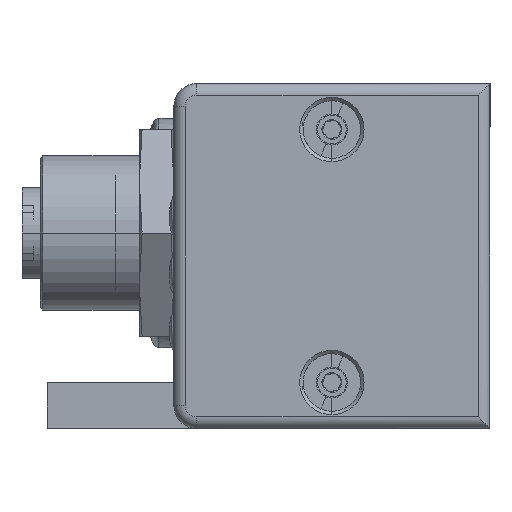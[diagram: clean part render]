
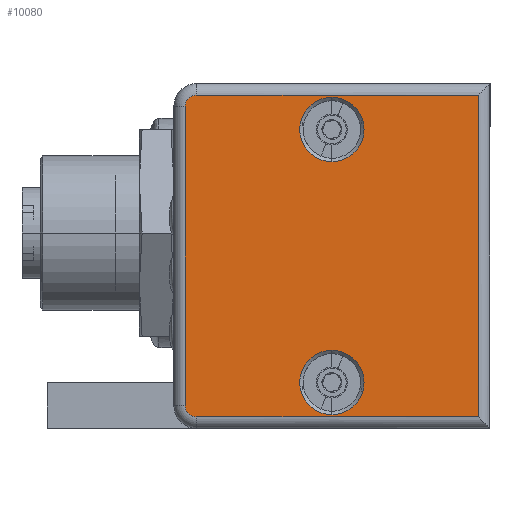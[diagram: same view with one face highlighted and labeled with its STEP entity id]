
A CAD part, left-side view. The second image highlights one B-rep face of the part: STEP entity #10080.
In plain terms, the highlighted planar face has unit normal (-1, 0, 0) as drawn and (0, 0, 1) by its records, which use the part's own axes.
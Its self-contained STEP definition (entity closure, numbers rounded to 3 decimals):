
#167 = ORIENTED_EDGE ( 'NONE', *, *, #6180, .T. ) ;
#464 = CARTESIAN_POINT ( 'NONE',  ( 14., 11.75, 3. ) ) ;
#534 = EDGE_CURVE ( 'NONE', #7357, #1051, #9584, .T. ) ;
#575 = EDGE_CURVE ( 'NONE', #7541, #13438, #13485, .T. ) ;
#699 = EDGE_CURVE ( 'NONE', #11441, #15403, #14670, .T. ) ;
#715 = DIRECTION ( 'NONE',  ( 1., 0., 0. ) ) ;
#787 = DIRECTION ( 'NONE',  ( 1., 0., 0. ) ) ;
#848 = AXIS2_PLACEMENT_3D ( 'NONE', #5374, #14075, #1883 ) ;
#915 = EDGE_CURVE ( 'NONE', #11059, #11441, #9184, .T. ) ;
#955 = VECTOR ( 'NONE', #5022, 1000. ) ;
#1051 = VERTEX_POINT ( 'NONE', #13076 ) ;
#1241 = DIRECTION ( 'NONE',  ( 1., 0., 0. ) ) ;
#1594 = CIRCLE ( 'NONE', #15213, 2.8 ) ;
#1883 = DIRECTION ( 'NONE',  ( 1., 0., 0. ) ) ;
#2182 = EDGE_LOOP ( 'NONE', ( #7686, #9422, #11185, #3914, #167, #9073 ) ) ;
#2585 = VECTOR ( 'NONE', #6075, 1000. ) ;
#2619 = FACE_BOUND ( 'NONE', #3405, .T. ) ;
#3405 = EDGE_LOOP ( 'NONE', ( #15113, #13534 ) ) ;
#3630 = CARTESIAN_POINT ( 'NONE',  ( -14., 11.75, 3. ) ) ;
#3653 = CARTESIAN_POINT ( 'NONE',  ( -14., -12.75, 3. ) ) ;
#3737 = CARTESIAN_POINT ( 'NONE',  ( 15., -12.75, 3. ) ) ;
#3818 = ORIENTED_EDGE ( 'NONE', *, *, #5442, .T. ) ;
#3914 = ORIENTED_EDGE ( 'NONE', *, *, #15902, .T. ) ;
#4994 = EDGE_CURVE ( 'NONE', #7082, #10305, #11754, .T. ) ;
#5022 = DIRECTION ( 'NONE',  ( -1., 0., 0. ) ) ;
#5066 = LINE ( 'NONE', #10208, #955 ) ;
#5374 = CARTESIAN_POINT ( 'NONE',  ( 11., 0., 3. ) ) ;
#5421 = CARTESIAN_POINT ( 'NONE',  ( -13., 11.75, 3. ) ) ;
#5442 = EDGE_CURVE ( 'NONE', #10305, #7082, #14260, .T. ) ;
#5624 = CARTESIAN_POINT ( 'NONE',  ( -11., 0., 3. ) ) ;
#5757 = EDGE_LOOP ( 'NONE', ( #3818, #7883 ) ) ;
#6075 = DIRECTION ( 'NONE',  ( 0., 1., 0. ) ) ;
#6091 = DIRECTION ( 'NONE',  ( 0., 0., 1. ) ) ;
#6180 = EDGE_CURVE ( 'NONE', #6756, #11059, #5066, .T. ) ;
#6315 = DIRECTION ( 'NONE',  ( 0., 0., 1. ) ) ;
#6658 = DIRECTION ( 'NONE',  ( 0., 0., 1. ) ) ;
#6756 = VERTEX_POINT ( 'NONE', #10096 ) ;
#6805 = DIRECTION ( 'NONE',  ( 0., 0., -1. ) ) ;
#6896 = CARTESIAN_POINT ( 'NONE',  ( -11., 0., 3. ) ) ;
#7082 = VERTEX_POINT ( 'NONE', #11016 ) ;
#7357 = VERTEX_POINT ( 'NONE', #8060 ) ;
#7403 = PLANE ( 'NONE',  #8199 ) ;
#7437 = DIRECTION ( 'NONE',  ( 1., 0., 0. ) ) ;
#7481 = DIRECTION ( 'NONE',  ( 0., 0., -1. ) ) ;
#7493 = FACE_OUTER_BOUND ( 'NONE', #2182, .T. ) ;
#7541 = VERTEX_POINT ( 'NONE', #9544 ) ;
#7640 = EDGE_CURVE ( 'NONE', #15403, #7541, #8492, .T. ) ;
#7686 = ORIENTED_EDGE ( 'NONE', *, *, #699, .T. ) ;
#7883 = ORIENTED_EDGE ( 'NONE', *, *, #4994, .T. ) ;
#7986 = CARTESIAN_POINT ( 'NONE',  ( 13.8, 0., 3. ) ) ;
#8060 = CARTESIAN_POINT ( 'NONE',  ( -8.2, 0., 3. ) ) ;
#8199 = AXIS2_PLACEMENT_3D ( 'NONE', #16049, #6315, #1241 ) ;
#8327 = CIRCLE ( 'NONE', #15324, 1. ) ;
#8492 = LINE ( 'NONE', #3737, #11438 ) ;
#8551 = CARTESIAN_POINT ( 'NONE',  ( 11., 0., 3. ) ) ;
#8711 = CARTESIAN_POINT ( 'NONE',  ( -14., -13.75, 3. ) ) ;
#9073 = ORIENTED_EDGE ( 'NONE', *, *, #915, .T. ) ;
#9184 = CIRCLE ( 'NONE', #11952, 1. ) ;
#9422 = ORIENTED_EDGE ( 'NONE', *, *, #7640, .T. ) ;
#9544 = CARTESIAN_POINT ( 'NONE',  ( 14., -12.75, 3. ) ) ;
#9584 = CIRCLE ( 'NONE', #11644, 2.8 ) ;
#9963 = DIRECTION ( 'NONE',  ( 0., -1., 0. ) ) ;
#10080 = ADVANCED_FACE ( 'NONE', ( #10993, #2619, #7493 ), #7403, .T. ) ;
#10096 = CARTESIAN_POINT ( 'NONE',  ( 13., 12.75, 3. ) ) ;
#10208 = CARTESIAN_POINT ( 'NONE',  ( -13., 12.75, 3. ) ) ;
#10305 = VERTEX_POINT ( 'NONE', #7986 ) ;
#10993 = FACE_BOUND ( 'NONE', #5757, .T. ) ;
#11016 = CARTESIAN_POINT ( 'NONE',  ( 8.2, 0., 3. ) ) ;
#11059 = VERTEX_POINT ( 'NONE', #11164 ) ;
#11164 = CARTESIAN_POINT ( 'NONE',  ( -13., 12.75, 3. ) ) ;
#11185 = ORIENTED_EDGE ( 'NONE', *, *, #575, .T. ) ;
#11198 = DIRECTION ( 'NONE',  ( 1., 0., 0. ) ) ;
#11251 = DIRECTION ( 'NONE',  ( 1., 0., 0. ) ) ;
#11438 = VECTOR ( 'NONE', #11198, 1000. ) ;
#11441 = VERTEX_POINT ( 'NONE', #3630 ) ;
#11644 = AXIS2_PLACEMENT_3D ( 'NONE', #6896, #11960, #13248 ) ;
#11754 = CIRCLE ( 'NONE', #13141, 2.8 ) ;
#11952 = AXIS2_PLACEMENT_3D ( 'NONE', #5421, #6658, #715 ) ;
#11960 = DIRECTION ( 'NONE',  ( 0., 0., -1. ) ) ;
#12266 = EDGE_CURVE ( 'NONE', #1051, #7357, #1594, .T. ) ;
#13076 = CARTESIAN_POINT ( 'NONE',  ( -13.8, 0., 3. ) ) ;
#13141 = AXIS2_PLACEMENT_3D ( 'NONE', #8551, #7481, #11251 ) ;
#13248 = DIRECTION ( 'NONE',  ( 1., 0., 0. ) ) ;
#13438 = VERTEX_POINT ( 'NONE', #464 ) ;
#13485 = LINE ( 'NONE', #15920, #2585 ) ;
#13534 = ORIENTED_EDGE ( 'NONE', *, *, #12266, .T. ) ;
#14075 = DIRECTION ( 'NONE',  ( 0., 0., -1. ) ) ;
#14260 = CIRCLE ( 'NONE', #848, 2.8 ) ;
#14284 = VECTOR ( 'NONE', #9963, 1000. ) ;
#14670 = LINE ( 'NONE', #8711, #14284 ) ;
#14740 = CARTESIAN_POINT ( 'NONE',  ( 13., 11.75, 3. ) ) ;
#15113 = ORIENTED_EDGE ( 'NONE', *, *, #534, .T. ) ;
#15213 = AXIS2_PLACEMENT_3D ( 'NONE', #5624, #6805, #787 ) ;
#15324 = AXIS2_PLACEMENT_3D ( 'NONE', #14740, #6091, #7437 ) ;
#15403 = VERTEX_POINT ( 'NONE', #3653 ) ;
#15902 = EDGE_CURVE ( 'NONE', #13438, #6756, #8327, .T. ) ;
#15920 = CARTESIAN_POINT ( 'NONE',  ( 14., 11.75, 3. ) ) ;
#16049 = CARTESIAN_POINT ( 'NONE',  ( -13., 11.75, 3. ) ) ;
